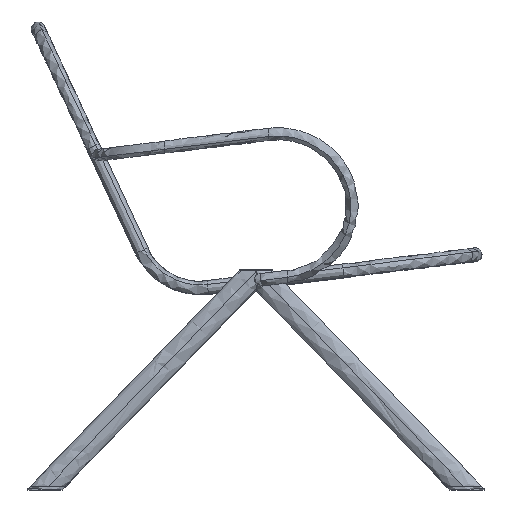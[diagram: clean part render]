
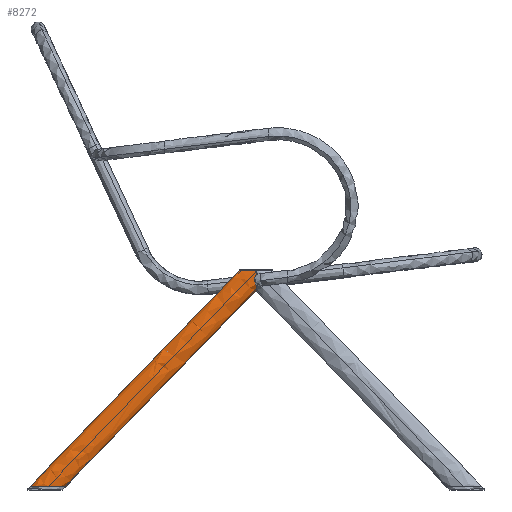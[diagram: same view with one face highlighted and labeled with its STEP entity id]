
A CAD part, left-side view. The second image highlights one B-rep face of the part: STEP entity #8272.
In plain terms, the highlighted free-form (B-spline) face has degree [2, 1] with [5, 2] control points.
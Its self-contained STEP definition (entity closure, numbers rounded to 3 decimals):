
#615=B_SPLINE_CURVE_WITH_KNOTS('',3,(#17915,#17916,#17917,#17918,#17919,
#17920,#17921,#17922,#17923,#17924,#17925,#17926),.UNSPECIFIED.,.F.,.F.,
(4,2,2,2,2,4),(-2.265,-1.07,-0.455,-0.2,
-0.096,0.),.UNSPECIFIED.);
#616=B_SPLINE_CURVE_WITH_KNOTS('',3,(#17927,#17928,#17929,#17930,#17931,
#17932,#17933,#17934,#17935,#17936,#17937,#17938),.UNSPECIFIED.,.F.,.F.,
(4,2,2,2,2,4),(0.,1.564,2.919,3.474,
3.697,3.899),.UNSPECIFIED.);
#617=B_SPLINE_CURVE_WITH_KNOTS('',3,(#17939,#17940,#17941,#17942,#17943,
#17944,#17945,#17946,#17947,#17948,#17949,#17950,#17951,#17952,#17953,#17954,
#17955,#17956,#17957,#17958,#17959,#17960,#17961,#17962),.UNSPECIFIED.,
 .F.,.F.,(4,2,2,2,2,2,2,2,2,2,2,4),(-4.146,-4.056,
-3.958,-3.723,-3.163,-2.08,
-2.065,-0.983,-0.424,-0.189,
-0.091,0.),.UNSPECIFIED.);
#1086=(
BOUNDED_SURFACE()
B_SPLINE_SURFACE(2,1,((#17904,#17905),(#17906,#17907),(#17908,#17909),(#17910,
#17911),(#17912,#17913)),.UNSPECIFIED.,.F.,.F.,.F.)
B_SPLINE_SURFACE_WITH_KNOTS((3,2,3),(2,2),(0.,30.,60.),
(0.492,663.404),.UNSPECIFIED.)
GEOMETRIC_REPRESENTATION_ITEM()
RATIONAL_B_SPLINE_SURFACE(((1.,1.),(0.707,0.707),
(1.,1.),(0.707,0.707),(1.,1.)))
REPRESENTATION_ITEM('')
SURFACE()
);
#1395=FACE_OUTER_BOUND('',#1910,.T.);
#1910=EDGE_LOOP('',(#6437,#6438,#6439,#6440,#6441));
#2774=LINE('',#17788,#3186);
#2775=LINE('',#17820,#3187);
#3186=VECTOR('',#9841,10.);
#3187=VECTOR('',#9842,10.);
#3677=VERTEX_POINT('',#17786);
#3678=VERTEX_POINT('',#17787);
#3680=VERTEX_POINT('',#17802);
#3681=VERTEX_POINT('',#17819);
#3683=VERTEX_POINT('',#17914);
#4655=EDGE_CURVE('',#3677,#3678,#2774,.T.);
#4658=EDGE_CURVE('',#3681,#3680,#2775,.T.);
#4661=EDGE_CURVE('',#3683,#3680,#615,.T.);
#4662=EDGE_CURVE('',#3683,#3678,#616,.T.);
#4663=EDGE_CURVE('',#3681,#3677,#617,.T.);
#6437=ORIENTED_EDGE('',*,*,#4658,.T.);
#6438=ORIENTED_EDGE('',*,*,#4661,.F.);
#6439=ORIENTED_EDGE('',*,*,#4662,.T.);
#6440=ORIENTED_EDGE('',*,*,#4655,.F.);
#6441=ORIENTED_EDGE('',*,*,#4663,.F.);
#8272=ADVANCED_FACE('',(#1395),#1086,.T.);
#9841=DIRECTION('',(0.024,-0.695,0.718));
#9842=DIRECTION('',(0.024,-0.695,0.718));
#17786=CARTESIAN_POINT('',(-309.216,202.869,5.446));
#17787=CARTESIAN_POINT('',(-298.146,-121.93,340.929));
#17788=CARTESIAN_POINT('',(-309.216,202.869,5.446));
#17802=CARTESIAN_POINT('',(-298.275,-147.563,309.917));
#17819=CARTESIAN_POINT('',(-308.322,147.211,5.446));
#17820=CARTESIAN_POINT('',(-308.322,147.211,5.446));
#17904=CARTESIAN_POINT('Ctrl Pts',(-309.216,202.869,5.446));
#17905=CARTESIAN_POINT('Ctrl Pts',(-293.129,-269.117,
492.958));
#17906=CARTESIAN_POINT('Ctrl Pts',(-319.216,202.869,5.446));
#17907=CARTESIAN_POINT('Ctrl Pts',(-303.129,-269.117,
492.958));
#17908=CARTESIAN_POINT('Ctrl Pts',(-319.216,188.156,-8.101));
#17909=CARTESIAN_POINT('Ctrl Pts',(-303.129,-283.83,
479.411));
#17910=CARTESIAN_POINT('Ctrl Pts',(-319.216,173.443,-21.648));
#17911=CARTESIAN_POINT('Ctrl Pts',(-303.129,-298.543,
465.863));
#17912=CARTESIAN_POINT('Ctrl Pts',(-309.216,173.443,-21.648));
#17913=CARTESIAN_POINT('Ctrl Pts',(-293.129,-298.543,
465.863));
#17914=CARTESIAN_POINT('',(-307.703,-147.563,340.929));
#17915=CARTESIAN_POINT('Ctrl Pts',(-307.703,-147.563,
340.929));
#17916=CARTESIAN_POINT('Ctrl Pts',(-308.062,-147.563,
332.94));
#17917=CARTESIAN_POINT('Ctrl Pts',(-307.248,-147.563,
325.04));
#17918=CARTESIAN_POINT('Ctrl Pts',(-304.538,-147.563,
316.127));
#17919=CARTESIAN_POINT('Ctrl Pts',(-303.392,-147.563,
313.736));
#17920=CARTESIAN_POINT('Ctrl Pts',(-301.559,-147.563,
311.485));
#17921=CARTESIAN_POINT('Ctrl Pts',(-300.917,-147.563,
310.865));
#17922=CARTESIAN_POINT('Ctrl Pts',(-299.873,-147.563,
310.275));
#17923=CARTESIAN_POINT('Ctrl Pts',(-299.552,-147.563,
310.137));
#17924=CARTESIAN_POINT('Ctrl Pts',(-298.908,-147.563,
309.961));
#17925=CARTESIAN_POINT('Ctrl Pts',(-298.594,-147.563,
309.917));
#17926=CARTESIAN_POINT('Ctrl Pts',(-298.275,-147.563,
309.917));
#17927=CARTESIAN_POINT('Ctrl Pts',(-307.703,-147.563,340.929));
#17928=CARTESIAN_POINT('Ctrl Pts',(-307.638,-142.35,340.929));
#17929=CARTESIAN_POINT('Ctrl Pts',(-307.05,-137.394,340.929));
#17930=CARTESIAN_POINT('Ctrl Pts',(-305.097,-129.58,
340.929));
#17931=CARTESIAN_POINT('Ctrl Pts',(-303.876,-126.655,
340.929));
#17932=CARTESIAN_POINT('Ctrl Pts',(-301.856,-123.885,
340.929));
#17933=CARTESIAN_POINT('Ctrl Pts',(-301.137,-123.109,
340.929));
#17934=CARTESIAN_POINT('Ctrl Pts',(-299.952,-122.374,
340.929));
#17935=CARTESIAN_POINT('Ctrl Pts',(-299.59,-122.202,
340.929));
#17936=CARTESIAN_POINT('Ctrl Pts',(-298.861,-121.984,
340.929));
#17937=CARTESIAN_POINT('Ctrl Pts',(-298.507,-121.93,
340.929));
#17938=CARTESIAN_POINT('Ctrl Pts',(-298.146,-121.93,
340.929));
#17939=CARTESIAN_POINT('Ctrl Pts',(-308.322,147.211,5.446));
#17940=CARTESIAN_POINT('Ctrl Pts',(-308.626,147.211,5.446));
#17941=CARTESIAN_POINT('Ctrl Pts',(-308.927,147.25,5.446));
#17942=CARTESIAN_POINT('Ctrl Pts',(-309.544,147.404,5.446));
#17943=CARTESIAN_POINT('Ctrl Pts',(-309.853,147.525,5.446));
#17944=CARTESIAN_POINT('Ctrl Pts',(-310.859,148.038,5.446));
#17945=CARTESIAN_POINT('Ctrl Pts',(-311.49,148.577,5.446));
#17946=CARTESIAN_POINT('Ctrl Pts',(-313.323,150.56,5.446));
#17947=CARTESIAN_POINT('Ctrl Pts',(-314.509,152.663,5.446));
#17948=CARTESIAN_POINT('Ctrl Pts',(-317.469,160.534,5.446));
#17949=CARTESIAN_POINT('Ctrl Pts',(-318.638,167.579,5.446));
#17950=CARTESIAN_POINT('Ctrl Pts',(-318.769,175.029,5.446));
#17951=CARTESIAN_POINT('Ctrl Pts',(-318.77,175.132,5.446));
#17952=CARTESIAN_POINT('Ctrl Pts',(-318.871,182.571,5.446));
#17953=CARTESIAN_POINT('Ctrl Pts',(-317.924,189.597,5.446));
#17954=CARTESIAN_POINT('Ctrl Pts',(-315.216,197.441,5.446));
#17955=CARTESIAN_POINT('Ctrl Pts',(-314.099,199.535,5.446));
#17956=CARTESIAN_POINT('Ctrl Pts',(-312.333,201.51,5.446));
#17957=CARTESIAN_POINT('Ctrl Pts',(-311.72,202.046,5.446));
#17958=CARTESIAN_POINT('Ctrl Pts',(-310.733,202.557,5.446));
#17959=CARTESIAN_POINT('Ctrl Pts',(-310.428,202.677,5.446));
#17960=CARTESIAN_POINT('Ctrl Pts',(-309.817,202.831,5.446));
#17961=CARTESIAN_POINT('Ctrl Pts',(-309.519,202.869,5.446));
#17962=CARTESIAN_POINT('Ctrl Pts',(-309.216,202.869,5.446));
